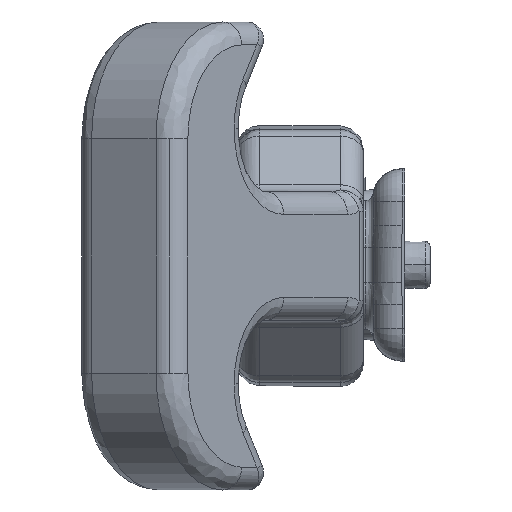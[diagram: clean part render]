
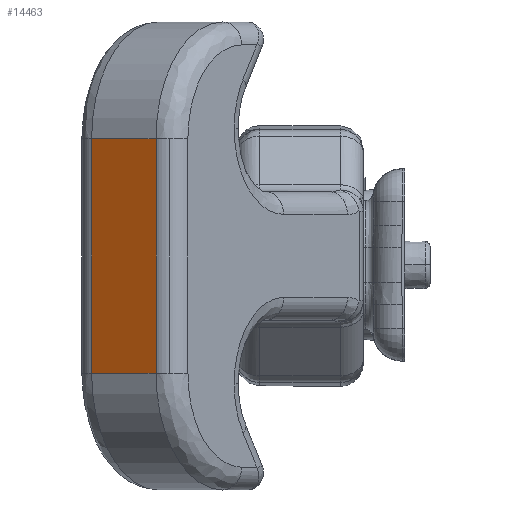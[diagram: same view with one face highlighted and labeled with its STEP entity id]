
A CAD part, left-side view. The second image highlights one B-rep face of the part: STEP entity #14463.
In plain terms, the highlighted planar face has unit normal (-0.819, 0.574, 0).
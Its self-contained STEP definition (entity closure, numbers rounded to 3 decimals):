
#1013 = ORIENTED_EDGE ( 'NONE', *, *, #32931, .T. ) ;
#1835 = VERTEX_POINT ( 'NONE', #3773 ) ;
#2902 = LINE ( 'NONE', #31333, #30517 ) ;
#3773 = CARTESIAN_POINT ( 'NONE',  ( -40.713, 20.812, 12.701 ) ) ;
#4064 = ORIENTED_EDGE ( 'NONE', *, *, #9443, .T. ) ;
#6469 = ORIENTED_EDGE ( 'NONE', *, *, #8757, .T. ) ;
#6866 = PLANE ( 'NONE',  #9624 ) ;
#7034 = EDGE_LOOP ( 'NONE', ( #6469, #24920, #1013, #4064 ) ) ;
#7620 = VECTOR ( 'NONE', #9327, 1000. ) ;
#8757 = EDGE_CURVE ( 'NONE', #9972, #1835, #27355, .T. ) ;
#9327 = DIRECTION ( 'NONE',  ( 0., 0., -1. ) ) ;
#9443 = EDGE_CURVE ( 'NONE', #34463, #9972, #10102, .T. ) ;
#9555 = DIRECTION ( 'NONE',  ( -0.574, -0.819, 0. ) ) ;
#9624 = AXIS2_PLACEMENT_3D ( 'NONE', #20212, #25589, #9555 ) ;
#9972 = VERTEX_POINT ( 'NONE', #15141 ) ;
#10102 = LINE ( 'NONE', #21485, #30630 ) ;
#10567 = VECTOR ( 'NONE', #29515, 1000. ) ;
#13043 = CARTESIAN_POINT ( 'NONE',  ( -36.182, 27.283, -10.899 ) ) ;
#14463 = ADVANCED_FACE ( 'NONE', ( #18488 ), #6866, .T. ) ;
#15141 = CARTESIAN_POINT ( 'NONE',  ( -40.713, 20.812, -10.899 ) ) ;
#16038 = CARTESIAN_POINT ( 'NONE',  ( -40.713, 20.812, 0.901 ) ) ;
#16437 = LINE ( 'NONE', #24915, #7620 ) ;
#17753 = EDGE_CURVE ( 'NONE', #1835, #26156, #2902, .T. ) ;
#18488 = FACE_OUTER_BOUND ( 'NONE', #7034, .T. ) ;
#19902 = CARTESIAN_POINT ( 'NONE',  ( -36.182, 27.283, 12.701 ) ) ;
#20212 = CARTESIAN_POINT ( 'NONE',  ( -36.182, 27.283, -10.899 ) ) ;
#21485 = CARTESIAN_POINT ( 'NONE',  ( -38.447, 24.048, -10.899 ) ) ;
#21951 = DIRECTION ( 'NONE',  ( -0.574, -0.819, 0. ) ) ;
#24915 = CARTESIAN_POINT ( 'NONE',  ( -36.182, 27.283, 0.901 ) ) ;
#24920 = ORIENTED_EDGE ( 'NONE', *, *, #17753, .T. ) ;
#25589 = DIRECTION ( 'NONE',  ( -0.819, 0.574, 0. ) ) ;
#26156 = VERTEX_POINT ( 'NONE', #19902 ) ;
#27355 = LINE ( 'NONE', #16038, #10567 ) ;
#29515 = DIRECTION ( 'NONE',  ( 0., 0., 1. ) ) ;
#30517 = VECTOR ( 'NONE', #34030, 1000. ) ;
#30630 = VECTOR ( 'NONE', #21951, 1000. ) ;
#31333 = CARTESIAN_POINT ( 'NONE',  ( -38.447, 24.048, 12.701 ) ) ;
#32931 = EDGE_CURVE ( 'NONE', #26156, #34463, #16437, .T. ) ;
#34030 = DIRECTION ( 'NONE',  ( 0.574, 0.819, 0. ) ) ;
#34463 = VERTEX_POINT ( 'NONE', #13043 ) ;
